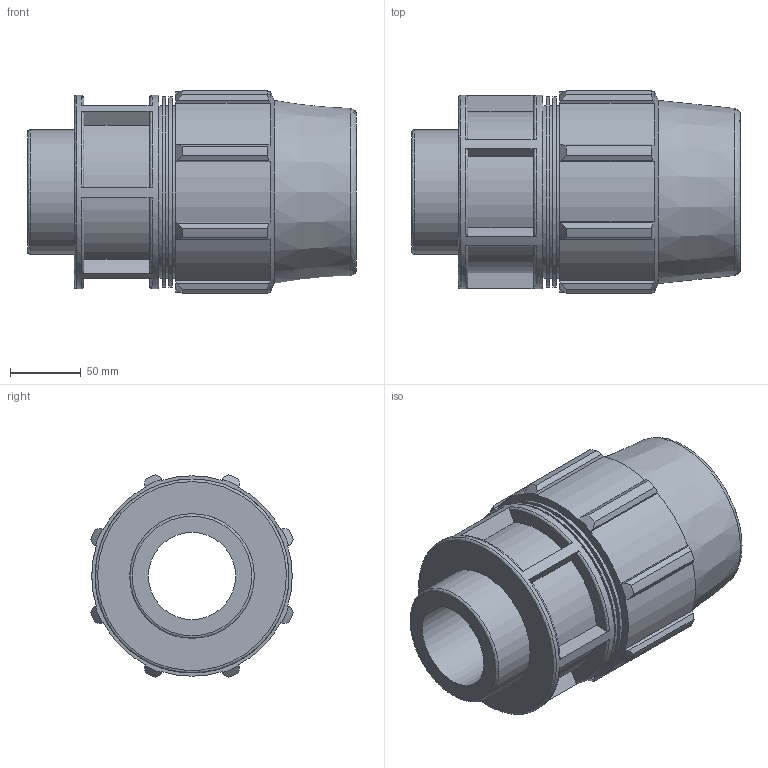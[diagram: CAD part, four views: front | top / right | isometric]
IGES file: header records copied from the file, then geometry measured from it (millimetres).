
Global section: file name: 0702060900300A.ipt; native system: Autodesk Inventor 2015; preprocessor: unknown; author: KIM; date: 20180325.201125; units: millimetre
Bounding box: 232 x 143.02 x 143.02 mm (x, y, z)
Volume: 1564807.4 mm3; surface area: 206160.1 mm2
Topology: 1 solids, 1 shells, 125 faces, 333 edges, 224 vertices
Faces by surface type: plane 67, cylinder 29, revolution 19, cone 10
Full cylindrical faces by diameter (mm): 87.884 x1, 121.6 x3, 134.064 x2, 136.8 x1
